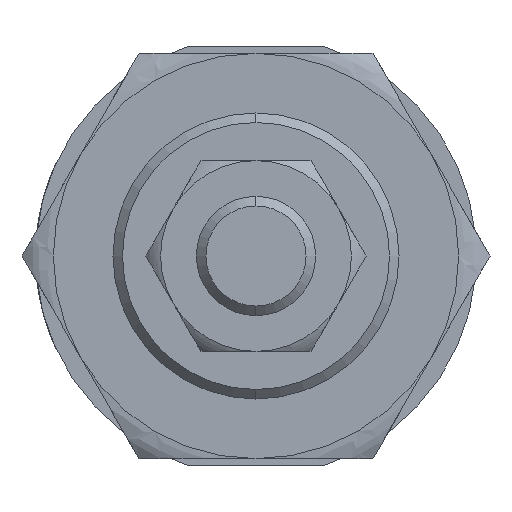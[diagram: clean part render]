
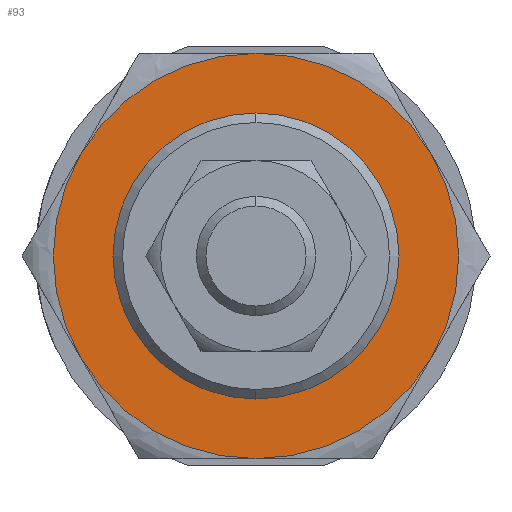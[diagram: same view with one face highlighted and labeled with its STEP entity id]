
A CAD part, left-side view. The second image highlights one B-rep face of the part: STEP entity #93.
In plain terms, the highlighted planar face has unit normal (-1, 0, 0).
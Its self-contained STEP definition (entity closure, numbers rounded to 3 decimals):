
#2 = VERTEX_POINT ( 'NONE', #2558 ) ;
#93 = ADVANCED_FACE ( 'NONE', ( #2687, #1381 ), #2458, .F. ) ;
#102 = CARTESIAN_POINT ( 'NONE',  ( -1.5, 7.361, 4.25 ) ) ;
#235 = DIRECTION ( 'NONE',  ( 0., 0., -1. ) ) ;
#256 = AXIS2_PLACEMENT_3D ( 'NONE', #1956, #1648, #635 ) ;
#303 = CARTESIAN_POINT ( 'NONE',  ( -1.5, 0., 0. ) ) ;
#304 = EDGE_CURVE ( 'NONE', #1448, #1484, #2546, .T. ) ;
#458 = EDGE_CURVE ( 'NONE', #2452, #2, #1793, .T. ) ;
#461 = CARTESIAN_POINT ( 'NONE',  ( -1.5, 0., 0. ) ) ;
#463 = EDGE_CURVE ( 'NONE', #1484, #1257, #2215, .T. ) ;
#528 = DIRECTION ( 'NONE',  ( 0., 0., 1. ) ) ;
#576 = AXIS2_PLACEMENT_3D ( 'NONE', #1045, #2776, #2297 ) ;
#635 = DIRECTION ( 'NONE',  ( 0., 0., -1. ) ) ;
#731 = DIRECTION ( 'NONE',  ( -1., 0., 0. ) ) ;
#810 = EDGE_LOOP ( 'NONE', ( #2909, #1078 ) ) ;
#819 = EDGE_CURVE ( 'NONE', #1763, #2293, #2970, .T. ) ;
#921 = VERTEX_POINT ( 'NONE', #102 ) ;
#1000 = CIRCLE ( 'NONE', #2877, 8.5 ) ;
#1045 = CARTESIAN_POINT ( 'NONE',  ( -1.5, 0., 0. ) ) ;
#1078 = ORIENTED_EDGE ( 'NONE', *, *, #2876, .T. ) ;
#1099 = DIRECTION ( 'NONE',  ( 0., 0., -1. ) ) ;
#1184 = CARTESIAN_POINT ( 'NONE',  ( -1.5, 0., 0. ) ) ;
#1186 = DIRECTION ( 'NONE',  ( 0., 0., -1. ) ) ;
#1241 = CARTESIAN_POINT ( 'NONE',  ( -1.5, -7.361, 4.25 ) ) ;
#1257 = VERTEX_POINT ( 'NONE', #1575 ) ;
#1320 = CARTESIAN_POINT ( 'NONE',  ( -1.5, 0., 0. ) ) ;
#1336 = DIRECTION ( 'NONE',  ( 1., 0., 0. ) ) ;
#1362 = CARTESIAN_POINT ( 'NONE',  ( -1.5, 0., -5.25 ) ) ;
#1381 = FACE_OUTER_BOUND ( 'NONE', #1685, .T. ) ;
#1394 = DIRECTION ( 'NONE',  ( 1., 0., 0. ) ) ;
#1448 = VERTEX_POINT ( 'NONE', #2195 ) ;
#1484 = VERTEX_POINT ( 'NONE', #1241 ) ;
#1575 = CARTESIAN_POINT ( 'NONE',  ( -1.5, -7.361, -4.25 ) ) ;
#1577 = ORIENTED_EDGE ( 'NONE', *, *, #2635, .F. ) ;
#1590 = DIRECTION ( 'NONE',  ( 0., 0., -1. ) ) ;
#1606 = ORIENTED_EDGE ( 'NONE', *, *, #458, .F. ) ;
#1641 = DIRECTION ( 'NONE',  ( 1., 0., 0. ) ) ;
#1648 = DIRECTION ( 'NONE',  ( 1., 0., 0. ) ) ;
#1685 = EDGE_LOOP ( 'NONE', ( #1606, #1577, #1821, #2977, #2231, #2403 ) ) ;
#1763 = VERTEX_POINT ( 'NONE', #1362 ) ;
#1793 = CIRCLE ( 'NONE', #2758, 8.5 ) ;
#1796 = CARTESIAN_POINT ( 'NONE',  ( -1.5, 0., 0. ) ) ;
#1821 = ORIENTED_EDGE ( 'NONE', *, *, #463, .F. ) ;
#1917 = DIRECTION ( 'NONE',  ( 0., 0., -1. ) ) ;
#1921 = EDGE_CURVE ( 'NONE', #1448, #921, #2047, .T. ) ;
#1948 = AXIS2_PLACEMENT_3D ( 'NONE', #303, #731, #528 ) ;
#1956 = CARTESIAN_POINT ( 'NONE',  ( -1.5, 0., 0. ) ) ;
#1996 = AXIS2_PLACEMENT_3D ( 'NONE', #1184, #2921, #235 ) ;
#2047 = CIRCLE ( 'NONE', #1948, 8.5 ) ;
#2096 = CIRCLE ( 'NONE', #2460, 5.25 ) ;
#2183 = DIRECTION ( 'NONE',  ( 1., 0., 0. ) ) ;
#2191 = EDGE_CURVE ( 'NONE', #2, #921, #1000, .T. ) ;
#2195 = CARTESIAN_POINT ( 'NONE',  ( -1.5, 0., 8.5 ) ) ;
#2215 = CIRCLE ( 'NONE', #576, 8.5 ) ;
#2231 = ORIENTED_EDGE ( 'NONE', *, *, #1921, .T. ) ;
#2288 = CARTESIAN_POINT ( 'NONE',  ( -1.5, 0., 0. ) ) ;
#2293 = VERTEX_POINT ( 'NONE', #2887 ) ;
#2297 = DIRECTION ( 'NONE',  ( 0., 0., -1. ) ) ;
#2403 = ORIENTED_EDGE ( 'NONE', *, *, #2191, .F. ) ;
#2452 = VERTEX_POINT ( 'NONE', #2899 ) ;
#2458 = PLANE ( 'NONE',  #2933 ) ;
#2460 = AXIS2_PLACEMENT_3D ( 'NONE', #2288, #2582, #1186 ) ;
#2506 = CIRCLE ( 'NONE', #1996, 8.5 ) ;
#2546 = CIRCLE ( 'NONE', #2894, 8.5 ) ;
#2558 = CARTESIAN_POINT ( 'NONE',  ( -1.5, 7.361, -4.25 ) ) ;
#2582 = DIRECTION ( 'NONE',  ( 1., 0., 0. ) ) ;
#2635 = EDGE_CURVE ( 'NONE', #1257, #2452, #2506, .T. ) ;
#2687 = FACE_BOUND ( 'NONE', #810, .T. ) ;
#2754 = CARTESIAN_POINT ( 'NONE',  ( -1.5, 0., 0. ) ) ;
#2758 = AXIS2_PLACEMENT_3D ( 'NONE', #461, #1336, #1590 ) ;
#2776 = DIRECTION ( 'NONE',  ( 1., 0., 0. ) ) ;
#2876 = EDGE_CURVE ( 'NONE', #2293, #1763, #2096, .T. ) ;
#2877 = AXIS2_PLACEMENT_3D ( 'NONE', #2754, #1394, #1917 ) ;
#2887 = CARTESIAN_POINT ( 'NONE',  ( -1.5, 0., 5.25 ) ) ;
#2894 = AXIS2_PLACEMENT_3D ( 'NONE', #1320, #2183, #3061 ) ;
#2899 = CARTESIAN_POINT ( 'NONE',  ( -1.5, 0., -8.5 ) ) ;
#2909 = ORIENTED_EDGE ( 'NONE', *, *, #819, .T. ) ;
#2921 = DIRECTION ( 'NONE',  ( 1., 0., 0. ) ) ;
#2933 = AXIS2_PLACEMENT_3D ( 'NONE', #1796, #1641, #1099 ) ;
#2970 = CIRCLE ( 'NONE', #256, 5.25 ) ;
#2977 = ORIENTED_EDGE ( 'NONE', *, *, #304, .F. ) ;
#3061 = DIRECTION ( 'NONE',  ( 0., 0., -1. ) ) ;
